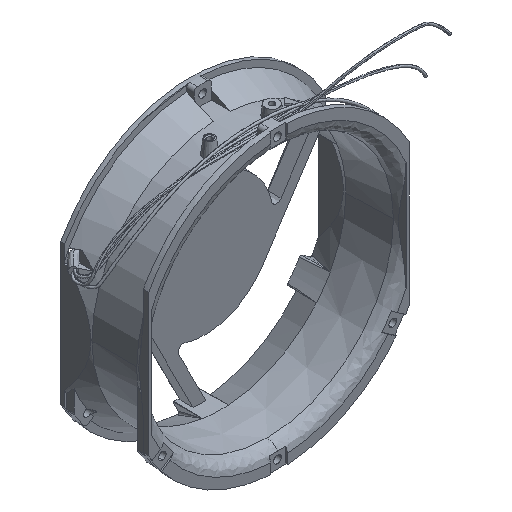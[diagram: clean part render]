
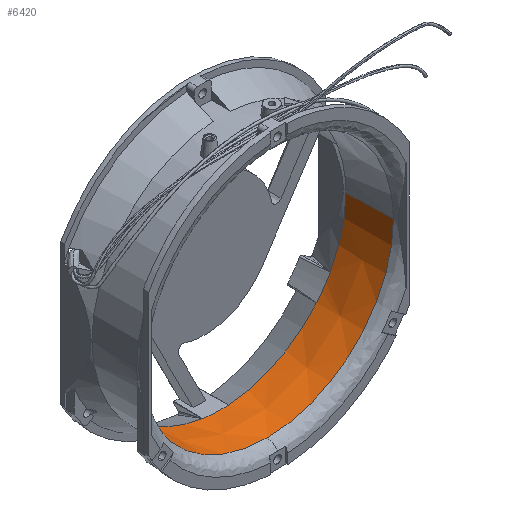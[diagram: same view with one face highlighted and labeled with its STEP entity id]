
A CAD part, isometric view. The second image highlights one B-rep face of the part: STEP entity #6420.
In plain terms, the highlighted conical face has half-angle 1.5 degrees and reference radius 73.203 mm.
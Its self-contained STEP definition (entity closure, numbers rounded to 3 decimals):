
#311 = CARTESIAN_POINT ( 'NONE',  ( 4.382, 17.863, -72.367 ) ) ;
#457 = EDGE_CURVE ( 'NONE', #8161, #14790, #4977, .T. ) ;
#665 = ORIENTED_EDGE ( 'NONE', *, *, #4307, .T. ) ;
#687 = VERTEX_POINT ( 'NONE', #8406 ) ;
#726 = DIRECTION ( 'NONE',  ( 0., -1., 0. ) ) ;
#857 = EDGE_CURVE ( 'NONE', #15061, #2656, #3231, .T. ) ;
#1019 = CARTESIAN_POINT ( 'NONE',  ( 0., -8.983, 0. ) ) ;
#1059 = DIRECTION ( 'NONE',  ( 1., 0., 0. ) ) ;
#1111 = CARTESIAN_POINT ( 'NONE',  ( 0., -8.983, 0. ) ) ;
#1146 = CARTESIAN_POINT ( 'NONE',  ( 0., 17.863, 0. ) ) ;
#1477 = CARTESIAN_POINT ( 'NONE',  ( -10.533, 17.863, -71.731 ) ) ;
#1870 = VECTOR ( 'NONE', #14210, 1000. ) ;
#1974 = ORIENTED_EDGE ( 'NONE', *, *, #15588, .F. ) ;
#2123 = DIRECTION ( 'NONE',  ( 0., 0., 1. ) ) ;
#2180 = DIRECTION ( 'NONE',  ( 0., 1., 0. ) ) ;
#2224 = DIRECTION ( 'NONE',  ( 0., 0., -1. ) ) ;
#2237 = CARTESIAN_POINT ( 'NONE',  ( 0., 17.863, 0. ) ) ;
#2253 = DIRECTION ( 'NONE',  ( 0., 1., 0. ) ) ;
#2258 = CARTESIAN_POINT ( 'NONE',  ( 0., -8.983, 0. ) ) ;
#2374 = DIRECTION ( 'NONE',  ( 0., 0., 1. ) ) ;
#2656 = VERTEX_POINT ( 'NONE', #311 ) ;
#2689 = AXIS2_PLACEMENT_3D ( 'NONE', #2889, #2876, #2860 ) ;
#2860 = DIRECTION ( 'NONE',  ( 0., 0., 1. ) ) ;
#2876 = DIRECTION ( 'NONE',  ( 0., 1., 0. ) ) ;
#2889 = CARTESIAN_POINT ( 'NONE',  ( 0., 17.863, 0. ) ) ;
#2899 = ORIENTED_EDGE ( 'NONE', *, *, #6792, .T. ) ;
#2918 = CARTESIAN_POINT ( 'NONE',  ( -72.5, 17.863, 0. ) ) ;
#2970 = AXIS2_PLACEMENT_3D ( 'NONE', #1019, #4812, #12321 ) ;
#3231 = CIRCLE ( 'NONE', #12996, 72.5 ) ;
#3267 = CARTESIAN_POINT ( 'NONE',  ( 72.5, 17.863, 0. ) ) ;
#3585 = CARTESIAN_POINT ( 'NONE',  ( 0., 17.863, 0. ) ) ;
#3882 = DIRECTION ( 'NONE',  ( -1., 0., 0. ) ) ;
#3898 = DIRECTION ( 'NONE',  ( 0., 1., 0. ) ) ;
#3901 = CARTESIAN_POINT ( 'NONE',  ( 0., 17.863, 0. ) ) ;
#3914 = AXIS2_PLACEMENT_3D ( 'NONE', #2258, #2253, #2224 ) ;
#4054 = AXIS2_PLACEMENT_3D ( 'NONE', #2237, #2180, #2123 ) ;
#4070 = CARTESIAN_POINT ( 'NONE',  ( 0., 17.863, 0. ) ) ;
#4307 = EDGE_CURVE ( 'NONE', #14552, #15061, #6937, .T. ) ;
#4380 = DIRECTION ( 'NONE',  ( 0., 1., 0. ) ) ;
#4796 = VECTOR ( 'NONE', #5767, 1000. ) ;
#4812 = DIRECTION ( 'NONE',  ( 0., 1., 0. ) ) ;
#4888 = DIRECTION ( 'NONE',  ( 0., 0., 1. ) ) ;
#4977 = CIRCLE ( 'NONE', #2970, 73.203 ) ;
#5146 = ORIENTED_EDGE ( 'NONE', *, *, #6085, .T. ) ;
#5309 = DIRECTION ( 'NONE',  ( -1., 0., 0. ) ) ;
#5351 = EDGE_CURVE ( 'NONE', #13714, #14790, #7717, .T. ) ;
#5385 = ORIENTED_EDGE ( 'NONE', *, *, #15194, .T. ) ;
#5664 = ORIENTED_EDGE ( 'NONE', *, *, #9454, .F. ) ;
#5767 = DIRECTION ( 'NONE',  ( 0.026, -1., 0. ) ) ;
#6085 = EDGE_CURVE ( 'NONE', #9618, #687, #15695, .T. ) ;
#6420 = ADVANCED_FACE ( 'NONE', ( #13885 ), #9672, .F. ) ;
#6792 = EDGE_CURVE ( 'NONE', #15568, #14552, #8309, .T. ) ;
#6937 = CIRCLE ( 'NONE', #9375, 72.5 ) ;
#7007 = CARTESIAN_POINT ( 'NONE',  ( 55.505, 17.863, -46.641 ) ) ;
#7135 = EDGE_CURVE ( 'NONE', #2656, #9618, #11810, .T. ) ;
#7717 = LINE ( 'NONE', #14232, #1870 ) ;
#7838 = EDGE_LOOP ( 'NONE', ( #5385, #9800, #11026, #5664, #1974, #2899, #665, #13835, #14406, #5146, #15483 ) ) ;
#8017 = CIRCLE ( 'NONE', #14543, 72.5 ) ;
#8161 = VERTEX_POINT ( 'NONE', #12853 ) ;
#8165 = DIRECTION ( 'NONE',  ( 0., 0., 1. ) ) ;
#8309 = CIRCLE ( 'NONE', #4054, 72.5 ) ;
#8406 = CARTESIAN_POINT ( 'NONE',  ( -55.505, 17.863, -46.641 ) ) ;
#9277 = LINE ( 'NONE', #14396, #4796 ) ;
#9375 = AXIS2_PLACEMENT_3D ( 'NONE', #3901, #3898, #3882 ) ;
#9454 = EDGE_CURVE ( 'NONE', #13623, #8161, #14134, .T. ) ;
#9618 = VERTEX_POINT ( 'NONE', #1477 ) ;
#9672 = CONICAL_SURFACE ( 'NONE', #13514, 73.203, 0.026 ) ;
#9800 = ORIENTED_EDGE ( 'NONE', *, *, #5351, .T. ) ;
#9846 = DIRECTION ( 'NONE',  ( 0., 1., 0. ) ) ;
#10682 = DIRECTION ( 'NONE',  ( 0., 1., 0. ) ) ;
#10812 = AXIS2_PLACEMENT_3D ( 'NONE', #14361, #4380, #8165 ) ;
#10847 = VERTEX_POINT ( 'NONE', #13725 ) ;
#11026 = ORIENTED_EDGE ( 'NONE', *, *, #457, .F. ) ;
#11039 = CARTESIAN_POINT ( 'NONE',  ( 73.203, -8.983, 0. ) ) ;
#11096 = CARTESIAN_POINT ( 'NONE',  ( -73.203, -8.983, 0. ) ) ;
#11810 = CIRCLE ( 'NONE', #10812, 72.5 ) ;
#11946 = CARTESIAN_POINT ( 'NONE',  ( 63.435, 17.863, -35.104 ) ) ;
#12279 = AXIS2_PLACEMENT_3D ( 'NONE', #4070, #12807, #5309 ) ;
#12321 = DIRECTION ( 'NONE',  ( 0., 0., -1. ) ) ;
#12807 = DIRECTION ( 'NONE',  ( 0., 1., 0. ) ) ;
#12853 = CARTESIAN_POINT ( 'NONE',  ( 0., -8.983, -73.203 ) ) ;
#12996 = AXIS2_PLACEMENT_3D ( 'NONE', #3585, #10682, #4888 ) ;
#13514 = AXIS2_PLACEMENT_3D ( 'NONE', #1111, #726, #1059 ) ;
#13623 = VERTEX_POINT ( 'NONE', #11039 ) ;
#13659 = EDGE_CURVE ( 'NONE', #687, #10847, #15474, .T. ) ;
#13714 = VERTEX_POINT ( 'NONE', #2918 ) ;
#13725 = CARTESIAN_POINT ( 'NONE',  ( -63.435, 17.863, -35.104 ) ) ;
#13835 = ORIENTED_EDGE ( 'NONE', *, *, #857, .T. ) ;
#13885 = FACE_OUTER_BOUND ( 'NONE', #7838, .T. ) ;
#14134 = CIRCLE ( 'NONE', #3914, 73.203 ) ;
#14210 = DIRECTION ( 'NONE',  ( -0.026, -1., 0. ) ) ;
#14232 = CARTESIAN_POINT ( 'NONE',  ( -73.203, -8.983, 0. ) ) ;
#14361 = CARTESIAN_POINT ( 'NONE',  ( 0., 17.863, 0. ) ) ;
#14396 = CARTESIAN_POINT ( 'NONE',  ( 73.203, -8.983, 0. ) ) ;
#14406 = ORIENTED_EDGE ( 'NONE', *, *, #7135, .T. ) ;
#14543 = AXIS2_PLACEMENT_3D ( 'NONE', #1146, #9846, #2374 ) ;
#14552 = VERTEX_POINT ( 'NONE', #11946 ) ;
#14790 = VERTEX_POINT ( 'NONE', #11096 ) ;
#15061 = VERTEX_POINT ( 'NONE', #7007 ) ;
#15194 = EDGE_CURVE ( 'NONE', #10847, #13714, #8017, .T. ) ;
#15474 = CIRCLE ( 'NONE', #12279, 72.5 ) ;
#15483 = ORIENTED_EDGE ( 'NONE', *, *, #13659, .T. ) ;
#15568 = VERTEX_POINT ( 'NONE', #3267 ) ;
#15588 = EDGE_CURVE ( 'NONE', #15568, #13623, #9277, .T. ) ;
#15695 = CIRCLE ( 'NONE', #2689, 72.5 ) ;
